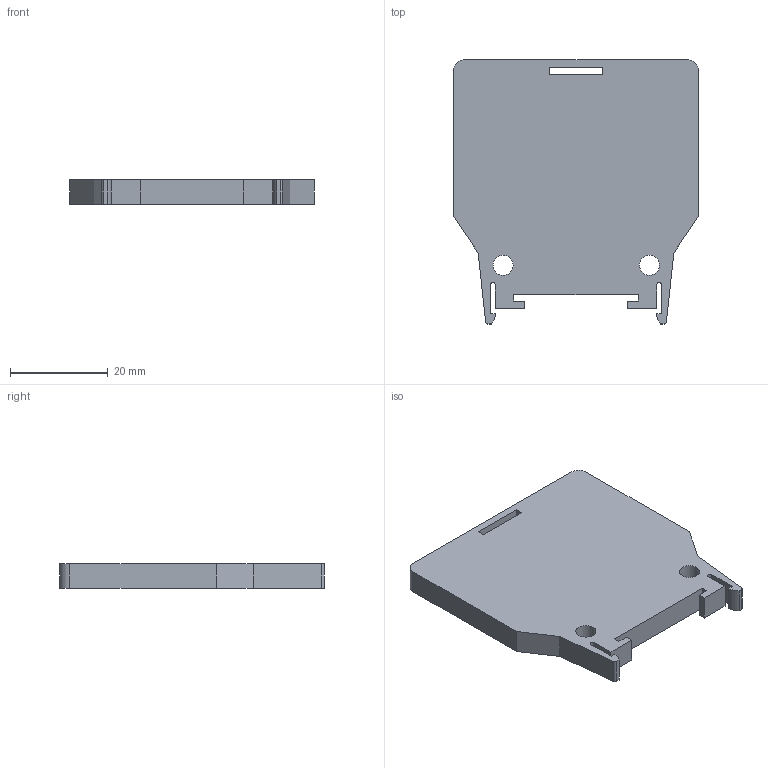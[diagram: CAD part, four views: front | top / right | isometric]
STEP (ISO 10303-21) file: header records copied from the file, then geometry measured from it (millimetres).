
FILE_DESCRIPTION(/* description */ (''),/* implementation_level */ '2;1');
FILE_NAME(/* name */ 'C:\Users\USERCADG105.FUJIDK\Desktop\23223-(TX-22 Eﾌﾟﾚｰﾄ)HP 3D.stp',/* time_stamp */ '2024-12-02T17:00:07+09:00',/* author */ ('usercadg105'),/* organization */ (''),/* preprocessor_version */ 'ST-DEVELOPER v19',/* originating_system */ 'Autodesk Inventor 2023',/* authorisation */ '');
FILE_SCHEMA (('CONFIG_CONTROL_DESIGN'));
Length unit declared in the file: millimetre
Products named in the file (1): 23223-(TX-22 Eﾌﾟﾚｰﾄ)HP 3D
Bounding box: 50 x 54 x 5 mm (x, y, z)
Volume: 11331.8 mm3; surface area: 5987.1 mm2
Topology: 1 solids, 1 shells, 40 faces, 114 edges, 76 vertices
Faces by surface type: plane 30, cylinder 10
Full cylindrical faces by diameter (mm): 4.1 x2
Entity records: 1353 total; most frequent: CARTESIAN_POINT 231, ORIENTED_EDGE 228, DIRECTION 216, EDGE_CURVE 114, LINE 94, VECTOR 94, VERTEX_POINT 76, AXIS2_PLACEMENT_3D 61
